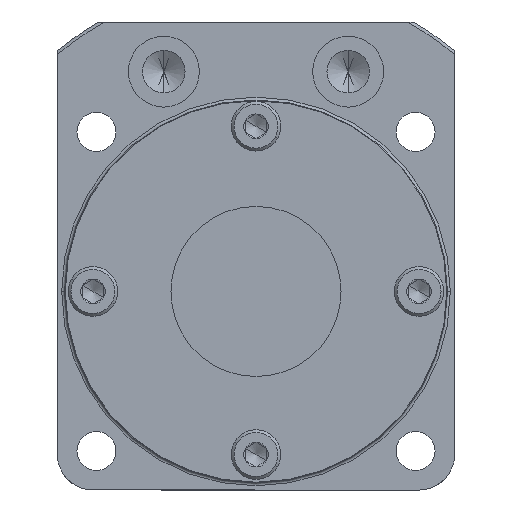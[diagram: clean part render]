
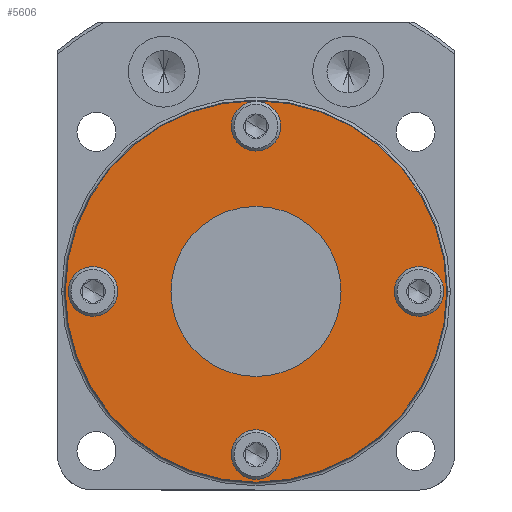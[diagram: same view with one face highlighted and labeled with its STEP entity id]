
A CAD part, front view. The second image highlights one B-rep face of the part: STEP entity #5606.
In plain terms, the highlighted planar face has unit normal (0, -1, 0).
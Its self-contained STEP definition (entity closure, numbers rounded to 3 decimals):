
#38 = VERTEX_POINT ( 'NONE', #1058 ) ;
#41 = EDGE_CURVE ( 'NONE', #38, #6290, #1051, .T. ) ;
#1047 = DIRECTION ( 'NONE',  ( 0., 0., -1. ) ) ;
#1048 = DIRECTION ( 'NONE',  ( 0., -1., 0. ) ) ;
#1049 = CARTESIAN_POINT ( 'NONE',  ( 0., 16.5, 0. ) ) ;
#1050 = AXIS2_PLACEMENT_3D ( 'NONE', #1049, #1048, #1047 ) ;
#1051 = CIRCLE ( 'NONE', #1050, 26.9 ) ;
#1058 = CARTESIAN_POINT ( 'NONE',  ( 0., 16.5, -26.9 ) ) ;
#2557 = DIRECTION ( 'NONE',  ( 0., -1., 0. ) ) ;
#2558 = CARTESIAN_POINT ( 'NONE',  ( -23., 16.5, 0. ) ) ;
#2801 = DIRECTION ( 'NONE',  ( 0., 0., -1. ) ) ;
#3048 = AXIS2_PLACEMENT_3D ( 'NONE', #2558, #2557, #2801 ) ;
#3049 = CIRCLE ( 'NONE', #3048, 2.15 ) ;
#3087 = DIRECTION ( 'NONE',  ( 0., 0., -1. ) ) ;
#3088 = DIRECTION ( 'NONE',  ( 0., -1., 0. ) ) ;
#3089 = AXIS2_PLACEMENT_3D ( 'NONE', #3093, #3088, #3087 ) ;
#3090 = CIRCLE ( 'NONE', #3089, 2.15 ) ;
#3093 = CARTESIAN_POINT ( 'NONE',  ( 23., 16.5, 0. ) ) ;
#3275 = CARTESIAN_POINT ( 'NONE',  ( -23., 16.5, 2.15 ) ) ;
#3286 = CARTESIAN_POINT ( 'NONE',  ( -23., 16.5, -2.15 ) ) ;
#3287 = DIRECTION ( 'NONE',  ( 0., 0., -1. ) ) ;
#3288 = DIRECTION ( 'NONE',  ( 0., -1., 0. ) ) ;
#3289 = CARTESIAN_POINT ( 'NONE',  ( -23., 16.5, 0. ) ) ;
#3290 = AXIS2_PLACEMENT_3D ( 'NONE', #3289, #3288, #3287 ) ;
#3291 = CIRCLE ( 'NONE', #3290, 2.15 ) ;
#3298 = CARTESIAN_POINT ( 'NONE',  ( 23., 16.5, -2.15 ) ) ;
#3299 = DIRECTION ( 'NONE',  ( 0., 0., -1. ) ) ;
#3300 = DIRECTION ( 'NONE',  ( 0., -1., 0. ) ) ;
#3301 = CARTESIAN_POINT ( 'NONE',  ( 23., 16.5, 0. ) ) ;
#3302 = AXIS2_PLACEMENT_3D ( 'NONE', #3301, #3300, #3299 ) ;
#3303 = CIRCLE ( 'NONE', #3302, 2.15 ) ;
#3304 = CARTESIAN_POINT ( 'NONE',  ( 23., 16.5, 2.15 ) ) ;
#3336 = DIRECTION ( 'NONE',  ( 0., 0., -1. ) ) ;
#3337 = DIRECTION ( 'NONE',  ( 0., -1., 0. ) ) ;
#3338 = AXIS2_PLACEMENT_3D ( 'NONE', #3342, #3337, #3336 ) ;
#3339 = CIRCLE ( 'NONE', #3338, 2.15 ) ;
#3342 = CARTESIAN_POINT ( 'NONE',  ( 0., 16.5, -23. ) ) ;
#3384 = CARTESIAN_POINT ( 'NONE',  ( 0., 16.5, -25.15 ) ) ;
#3385 = DIRECTION ( 'NONE',  ( 0., 0., -1. ) ) ;
#3386 = DIRECTION ( 'NONE',  ( 0., -1., 0. ) ) ;
#3387 = CARTESIAN_POINT ( 'NONE',  ( 0., 16.5, -23. ) ) ;
#3388 = AXIS2_PLACEMENT_3D ( 'NONE', #3387, #3386, #3385 ) ;
#3389 = CIRCLE ( 'NONE', #3388, 2.15 ) ;
#3390 = CARTESIAN_POINT ( 'NONE',  ( 0., 16.5, -20.85 ) ) ;
#3416 = CARTESIAN_POINT ( 'NONE',  ( 0., 16.5, 0. ) ) ;
#3422 = CARTESIAN_POINT ( 'NONE',  ( 0., 16.5, 21.15 ) ) ;
#3423 = DIRECTION ( 'NONE',  ( 0., 0., -1. ) ) ;
#3424 = DIRECTION ( 'NONE',  ( 0., -1., 0. ) ) ;
#3425 = CARTESIAN_POINT ( 'NONE',  ( 0., 16.5, 23.3 ) ) ;
#3426 = AXIS2_PLACEMENT_3D ( 'NONE', #3425, #3424, #3423 ) ;
#3427 = CIRCLE ( 'NONE', #3426, 2.15 ) ;
#3428 = CARTESIAN_POINT ( 'NONE',  ( 0., 16.5, 25.45 ) ) ;
#3460 = DIRECTION ( 'NONE',  ( 0., 0., -1. ) ) ;
#3461 = DIRECTION ( 'NONE',  ( 0., -1., 0. ) ) ;
#3462 = CARTESIAN_POINT ( 'NONE',  ( 0., 16.5, 0. ) ) ;
#3463 = AXIS2_PLACEMENT_3D ( 'NONE', #3462, #3461, #3460 ) ;
#3464 = PLANE ( 'NONE',  #3463 ) ;
#3465 = FACE_OUTER_BOUND ( 'NONE', #5892, .T. ) ;
#3466 = FACE_BOUND ( 'NONE', #5811, .T. ) ;
#3467 = FACE_BOUND ( 'NONE', #5826, .T. ) ;
#3468 = FACE_BOUND ( 'NONE', #5459, .T. ) ;
#3469 = FACE_BOUND ( 'NONE', #5463, .T. ) ;
#3470 = DIRECTION ( 'NONE',  ( 0., 0., -1. ) ) ;
#3471 = DIRECTION ( 'NONE',  ( 0., -1., 0. ) ) ;
#3472 = AXIS2_PLACEMENT_3D ( 'NONE', #3416, #3471, #3470 ) ;
#3473 = CIRCLE ( 'NONE', #3472, 26.9 ) ;
#3474 = FACE_BOUND ( 'NONE', #5473, .T. ) ;
#3848 = DIRECTION ( 'NONE',  ( 0., 0., -1. ) ) ;
#3849 = DIRECTION ( 'NONE',  ( 0., -1., 0. ) ) ;
#3850 = CARTESIAN_POINT ( 'NONE',  ( 0., 16.5, 23.3 ) ) ;
#3851 = AXIS2_PLACEMENT_3D ( 'NONE', #3850, #3849, #3848 ) ;
#3852 = CIRCLE ( 'NONE', #3851, 2.15 ) ;
#3971 = CARTESIAN_POINT ( 'NONE',  ( 0., 16.5, 0. ) ) ;
#3975 = DIRECTION ( 'NONE',  ( 0., 0., -1. ) ) ;
#3976 = DIRECTION ( 'NONE',  ( 0., -1., 0. ) ) ;
#3977 = AXIS2_PLACEMENT_3D ( 'NONE', #3971, #3976, #3975 ) ;
#3978 = CIRCLE ( 'NONE', #3977, 12. ) ;
#4764 = CARTESIAN_POINT ( 'NONE',  ( 0., 16.5, 26.9 ) ) ;
#4765 = DIRECTION ( 'NONE',  ( 0., 0., -1. ) ) ;
#4766 = DIRECTION ( 'NONE',  ( 0., -1., 0. ) ) ;
#4767 = CARTESIAN_POINT ( 'NONE',  ( 0., 16.5, 0. ) ) ;
#4768 = AXIS2_PLACEMENT_3D ( 'NONE', #4767, #4766, #4765 ) ;
#4769 = CIRCLE ( 'NONE', #4768, 12. ) ;
#4770 = CARTESIAN_POINT ( 'NONE',  ( 0., 16.5, 12. ) ) ;
#4771 = CARTESIAN_POINT ( 'NONE',  ( 0., 16.5, -12. ) ) ;
#5459 = EDGE_LOOP ( 'NONE', ( #5559, #5825 ) ) ;
#5460 = ORIENTED_EDGE ( 'NONE', *, *, #5551, .F. ) ;
#5461 = EDGE_CURVE ( 'NONE', #5552, #5527, #3049, .T. ) ;
#5462 = ORIENTED_EDGE ( 'NONE', *, *, #5461, .F. ) ;
#5463 = EDGE_LOOP ( 'NONE', ( #5462, #5460 ) ) ;
#5471 = ORIENTED_EDGE ( 'NONE', *, *, #5544, .F. ) ;
#5472 = EDGE_CURVE ( 'NONE', #5545, #5542, #3090, .T. ) ;
#5473 = EDGE_LOOP ( 'NONE', ( #5474, #5471 ) ) ;
#5474 = ORIENTED_EDGE ( 'NONE', *, *, #5472, .F. ) ;
#5527 = VERTEX_POINT ( 'NONE', #3275 ) ;
#5542 = VERTEX_POINT ( 'NONE', #3304 ) ;
#5544 = EDGE_CURVE ( 'NONE', #5542, #5545, #3303, .T. ) ;
#5545 = VERTEX_POINT ( 'NONE', #3298 ) ;
#5551 = EDGE_CURVE ( 'NONE', #5527, #5552, #3291, .T. ) ;
#5552 = VERTEX_POINT ( 'NONE', #3286 ) ;
#5559 = ORIENTED_EDGE ( 'NONE', *, *, #5560, .F. ) ;
#5560 = EDGE_CURVE ( 'NONE', #5586, #5583, #3339, .T. ) ;
#5583 = VERTEX_POINT ( 'NONE', #3390 ) ;
#5585 = EDGE_CURVE ( 'NONE', #5583, #5586, #3389, .T. ) ;
#5586 = VERTEX_POINT ( 'NONE', #3384 ) ;
#5597 = VERTEX_POINT ( 'NONE', #3428 ) ;
#5599 = EDGE_CURVE ( 'NONE', #5597, #5600, #3427, .T. ) ;
#5600 = VERTEX_POINT ( 'NONE', #3422 ) ;
#5605 = EDGE_CURVE ( 'NONE', #6290, #38, #3473, .T. ) ;
#5606 = ADVANCED_FACE ( 'NONE', ( #3474, #3469, #3468, #3467, #3466, #3465 ), #3464, .T. ) ;
#5808 = ORIENTED_EDGE ( 'NONE', *, *, #5809, .F. ) ;
#5809 = EDGE_CURVE ( 'NONE', #5600, #5597, #3852, .T. ) ;
#5810 = ORIENTED_EDGE ( 'NONE', *, *, #5599, .F. ) ;
#5811 = EDGE_LOOP ( 'NONE', ( #5889, #5890 ) ) ;
#5825 = ORIENTED_EDGE ( 'NONE', *, *, #5585, .F. ) ;
#5826 = EDGE_LOOP ( 'NONE', ( #5808, #5810 ) ) ;
#5889 = ORIENTED_EDGE ( 'NONE', *, *, #6288, .F. ) ;
#5890 = ORIENTED_EDGE ( 'NONE', *, *, #5891, .F. ) ;
#5891 = EDGE_CURVE ( 'NONE', #6286, #6285, #3978, .T. ) ;
#5892 = EDGE_LOOP ( 'NONE', ( #5893, #5894 ) ) ;
#5893 = ORIENTED_EDGE ( 'NONE', *, *, #41, .T. ) ;
#5894 = ORIENTED_EDGE ( 'NONE', *, *, #5605, .T. ) ;
#6285 = VERTEX_POINT ( 'NONE', #4771 ) ;
#6286 = VERTEX_POINT ( 'NONE', #4770 ) ;
#6288 = EDGE_CURVE ( 'NONE', #6285, #6286, #4769, .T. ) ;
#6290 = VERTEX_POINT ( 'NONE', #4764 ) ;
